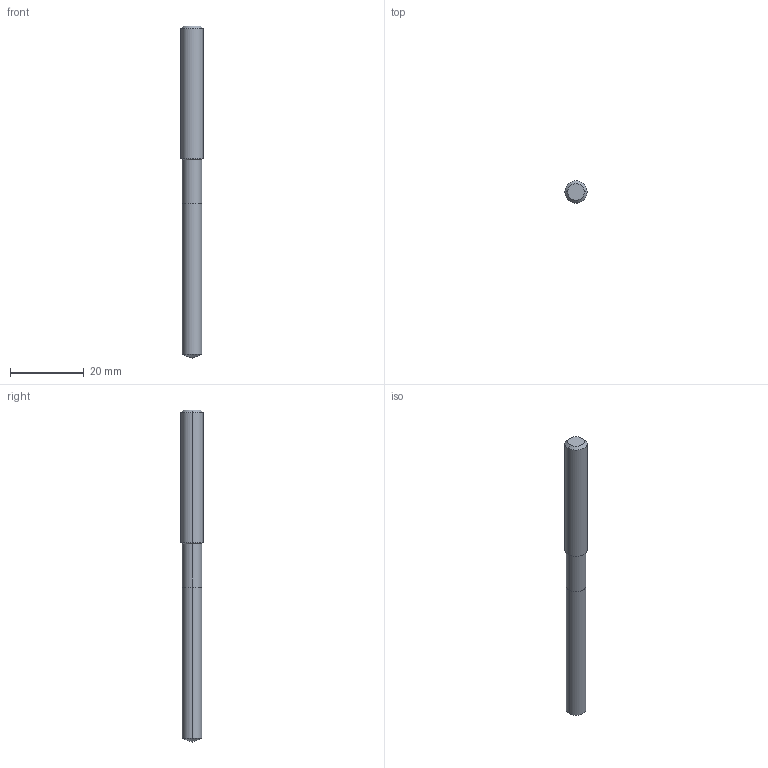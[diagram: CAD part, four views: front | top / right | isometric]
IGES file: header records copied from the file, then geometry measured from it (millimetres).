
Start section: 3D InterOp IGES (v. 2020 1.0.1), Spatial Corp. Copyright (c) 1999-2017.
Global section: file name: WZB12225_5.3.igs; native system: Spatial Corp.; preprocessor: 3D InterOp GENERIC/IGES 3.0; author: Noname; organization: Noname; date: 20201104.104655; units: metre
Bounding box: 6 x 6 x 90 mm (x, y, z)
Surface area: 1607.4 mm2 (no closed solid volume)
Topology: 0 solids, 0 shells, 14 faces, 54 edges, 52 vertices
Faces by surface type: revolution 12, extrusion 2
